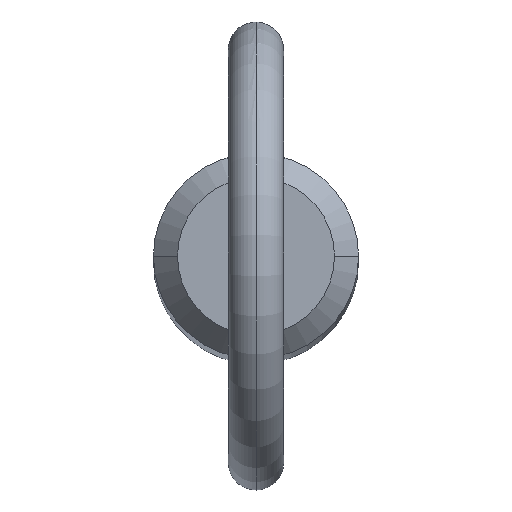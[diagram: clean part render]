
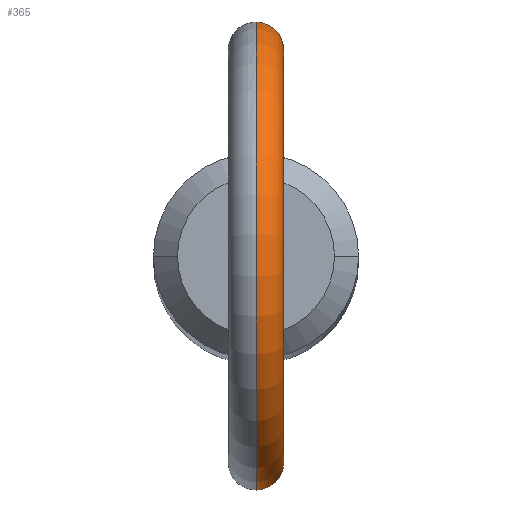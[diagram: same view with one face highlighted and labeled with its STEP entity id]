
A CAD part, top view. The second image highlights one B-rep face of the part: STEP entity #365.
In plain terms, the highlighted toroidal (fillet/blend) face has major radius 11.2 mm and minor radius 1.5 mm.
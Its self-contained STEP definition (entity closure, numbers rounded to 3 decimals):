
#2 = CARTESIAN_POINT ( 'NONE',  ( 1.485, 5.348, 153.078 ) ) ;
#4 = ORIENTED_EDGE ( 'NONE', *, *, #94, .F. ) ;
#7 = CARTESIAN_POINT ( 'NONE',  ( 0., 0., 162.6 ) ) ;
#12 = CARTESIAN_POINT ( 'NONE',  ( 1.055, -5.449, 151.605 ) ) ;
#20 = CARTESIAN_POINT ( 'NONE',  ( 0.977, -5.464, 151.532 ) ) ;
#33 = EDGE_CURVE ( 'NONE', #426, #384, #389, .T. ) ;
#41 = CARTESIAN_POINT ( 'NONE',  ( 0., 5.55, 151.177 ) ) ;
#43 = CARTESIAN_POINT ( 'NONE',  ( 0.212, 5.547, 151.188 ) ) ;
#45 = CARTESIAN_POINT ( 'NONE',  ( 1.393, 5.372, 152.133 ) ) ;
#46 = CARTESIAN_POINT ( 'NONE',  ( 0.107, 5.55, 151.177 ) ) ;
#55 = DIRECTION ( 'NONE',  ( 1., 0., 0. ) ) ;
#59 = ORIENTED_EDGE ( 'NONE', *, *, #182, .F. ) ;
#63 = CARTESIAN_POINT ( 'NONE',  ( 0., 0., 162.6 ) ) ;
#69 = B_SPLINE_CURVE_WITH_KNOTS ( 'NONE', 3,
 ( #41, #46, #43, #409, #325, #455, #360, #95, #143, #92, #45, #405, #224, #2, #178, #217, #139, #221, #493, #323, #489, #527, #363, #215 ),
 .UNSPECIFIED., .F., .F.,
 ( 4, 2, 2, 2, 2, 2, 2, 2, 2, 2, 2, 4 ),
 ( 0.001, 0.001, 0.001, 0.002, 0.002, 0.002, 0.003, 0.004, 0.004, 0.005, 0.005, 0.006 ),
 .UNSPECIFIED. ) ;
#81 = DIRECTION ( 'NONE',  ( 0., 0., -1. ) ) ;
#87 = AXIS2_PLACEMENT_3D ( 'NONE', #63, #55, #272 ) ;
#92 = CARTESIAN_POINT ( 'NONE',  ( 1.352, 5.383, 152.035 ) ) ;
#94 = EDGE_CURVE ( 'NONE', #505, #384, #241, .T. ) ;
#95 = CARTESIAN_POINT ( 'NONE',  ( 1.19, 5.421, 151.762 ) ) ;
#99 = DIRECTION ( 'NONE',  ( 0., 0., -1. ) ) ;
#105 = CARTESIAN_POINT ( 'NONE',  ( 0.941, -5.471, 154.207 ) ) ;
#131 = VERTEX_POINT ( 'NONE', #344 ) ;
#135 = DIRECTION ( 'NONE',  ( 1., 0., 0. ) ) ;
#139 = CARTESIAN_POINT ( 'NONE',  ( 1.194, 5.422, 153.872 ) ) ;
#143 = CARTESIAN_POINT ( 'NONE',  ( 1.251, 5.407, 151.85 ) ) ;
#144 = CARTESIAN_POINT ( 'NONE',  ( 1.455, -5.356, 152.338 ) ) ;
#148 = CARTESIAN_POINT ( 'NONE',  ( 1.5, -5.343, 152.654 ) ) ;
#153 = CARTESIAN_POINT ( 'NONE',  ( 1.26, -5.407, 151.843 ) ) ;
#175 = FACE_OUTER_BOUND ( 'NONE', #262, .T. ) ;
#178 = CARTESIAN_POINT ( 'NONE',  ( 1.44, 5.36, 153.288 ) ) ;
#182 = EDGE_CURVE ( 'NONE', #131, #505, #303, .T. ) ;
#188 = CARTESIAN_POINT ( 'NONE',  ( 0.515, -5.527, 154.522 ) ) ;
#194 = CARTESIAN_POINT ( 'NONE',  ( 1.363, -5.38, 152.034 ) ) ;
#197 = CARTESIAN_POINT ( 'NONE',  ( 0.421, -5.535, 151.232 ) ) ;
#202 = CARTESIAN_POINT ( 'NONE',  ( 0., 0., 162.6 ) ) ;
#215 = CARTESIAN_POINT ( 'NONE',  ( 0., 5.55, 154.645 ) ) ;
#216 = CARTESIAN_POINT ( 'NONE',  ( 0., -5.55, 151.177 ) ) ;
#217 = CARTESIAN_POINT ( 'NONE',  ( 1.294, 5.398, 153.685 ) ) ;
#221 = CARTESIAN_POINT ( 'NONE',  ( 1.003, 5.459, 154.125 ) ) ;
#224 = CARTESIAN_POINT ( 'NONE',  ( 1.509, 5.341, 152.653 ) ) ;
#241 = B_SPLINE_CURVE_WITH_KNOTS ( 'NONE', 3,
 ( #497, #500, #263, #457, #188, #499, #105, #370, #261, #330, #414, #502, #148, #366, #144, #194, #153, #12, #20, #425, #307, #296, #197, #274, #466, #469 ),
 .UNSPECIFIED., .F., .F.,
 ( 4, 2, 2, 2, 2, 2, 2, 2, 2, 2, 2, 2, 4 ),
 ( 0.005, 0.005, 0.005, 0.006, 0.006, 0.007, 0.007, 0.008, 0.008, 0.009, 0.009, 0.009, 0.01 ),
 .UNSPECIFIED. ) ;
#242 = AXIS2_PLACEMENT_3D ( 'NONE', #7, #329, #99 ) ;
#256 = ORIENTED_EDGE ( 'NONE', *, *, #373, .F. ) ;
#261 = CARTESIAN_POINT ( 'NONE',  ( 1.295, -5.397, 153.682 ) ) ;
#262 = EDGE_LOOP ( 'NONE', ( #256, #327, #4, #59 ) ) ;
#263 = CARTESIAN_POINT ( 'NONE',  ( 0.214, -5.547, 154.628 ) ) ;
#272 = DIRECTION ( 'NONE',  ( 0., 0., -1. ) ) ;
#274 = CARTESIAN_POINT ( 'NONE',  ( 0.213, -5.547, 151.188 ) ) ;
#275 = TOROIDAL_SURFACE ( 'NONE', #288, 11.2, 1.5 ) ;
#288 = AXIS2_PLACEMENT_3D ( 'NONE', #202, #135, #81 ) ;
#296 = CARTESIAN_POINT ( 'NONE',  ( 0.523, -5.526, 151.266 ) ) ;
#303 = CIRCLE ( 'NONE', #87, 9.7 ) ;
#307 = CARTESIAN_POINT ( 'NONE',  ( 0.716, -5.504, 151.352 ) ) ;
#323 = CARTESIAN_POINT ( 'NONE',  ( 0.779, 5.496, 154.348 ) ) ;
#325 = CARTESIAN_POINT ( 'NONE',  ( 0.522, 5.526, 151.265 ) ) ;
#327 = ORIENTED_EDGE ( 'NONE', *, *, #33, .T. ) ;
#329 = DIRECTION ( 'NONE',  ( 1., 0., 0. ) ) ;
#330 = CARTESIAN_POINT ( 'NONE',  ( 1.44, -5.36, 153.286 ) ) ;
#344 = CARTESIAN_POINT ( 'NONE',  ( 0., 5.55, 154.645 ) ) ;
#360 = CARTESIAN_POINT ( 'NONE',  ( 0.984, 5.464, 151.524 ) ) ;
#363 = CARTESIAN_POINT ( 'NONE',  ( 0.213, 5.55, 154.645 ) ) ;
#365 = ADVANCED_FACE ( 'NONE', ( #175 ), #275, .T. ) ;
#366 = CARTESIAN_POINT ( 'NONE',  ( 1.477, -5.35, 152.444 ) ) ;
#370 = CARTESIAN_POINT ( 'NONE',  ( 1.194, -5.422, 153.871 ) ) ;
#373 = EDGE_CURVE ( 'NONE', #426, #131, #69, .T. ) ;
#384 = VERTEX_POINT ( 'NONE', #216 ) ;
#389 = CIRCLE ( 'NONE', #242, 12.7 ) ;
#405 = CARTESIAN_POINT ( 'NONE',  ( 1.486, 5.348, 152.438 ) ) ;
#409 = CARTESIAN_POINT ( 'NONE',  ( 0.419, 5.535, 151.232 ) ) ;
#414 = CARTESIAN_POINT ( 'NONE',  ( 1.486, -5.347, 153.074 ) ) ;
#425 = CARTESIAN_POINT ( 'NONE',  ( 0.807, -5.492, 151.406 ) ) ;
#426 = VERTEX_POINT ( 'NONE', #492 ) ;
#429 = CARTESIAN_POINT ( 'NONE',  ( 0., -5.55, 154.645 ) ) ;
#455 = CARTESIAN_POINT ( 'NONE',  ( 0.81, 5.494, 151.395 ) ) ;
#457 = CARTESIAN_POINT ( 'NONE',  ( 0.417, -5.535, 154.567 ) ) ;
#466 = CARTESIAN_POINT ( 'NONE',  ( 0.107, -5.55, 151.177 ) ) ;
#469 = CARTESIAN_POINT ( 'NONE',  ( 0., -5.55, 151.177 ) ) ;
#489 = CARTESIAN_POINT ( 'NONE',  ( 0.694, 5.507, 154.414 ) ) ;
#492 = CARTESIAN_POINT ( 'NONE',  ( 0., 5.55, 151.177 ) ) ;
#493 = CARTESIAN_POINT ( 'NONE',  ( 0.933, 5.472, 154.204 ) ) ;
#497 = CARTESIAN_POINT ( 'NONE',  ( 0., -5.55, 154.645 ) ) ;
#499 = CARTESIAN_POINT ( 'NONE',  ( 0.786, -5.497, 154.357 ) ) ;
#500 = CARTESIAN_POINT ( 'NONE',  ( 0.106, -5.55, 154.645 ) ) ;
#502 = CARTESIAN_POINT ( 'NONE',  ( 1.503, -5.343, 152.759 ) ) ;
#505 = VERTEX_POINT ( 'NONE', #429 ) ;
#527 = CARTESIAN_POINT ( 'NONE',  ( 0.422, 5.537, 154.578 ) ) ;
